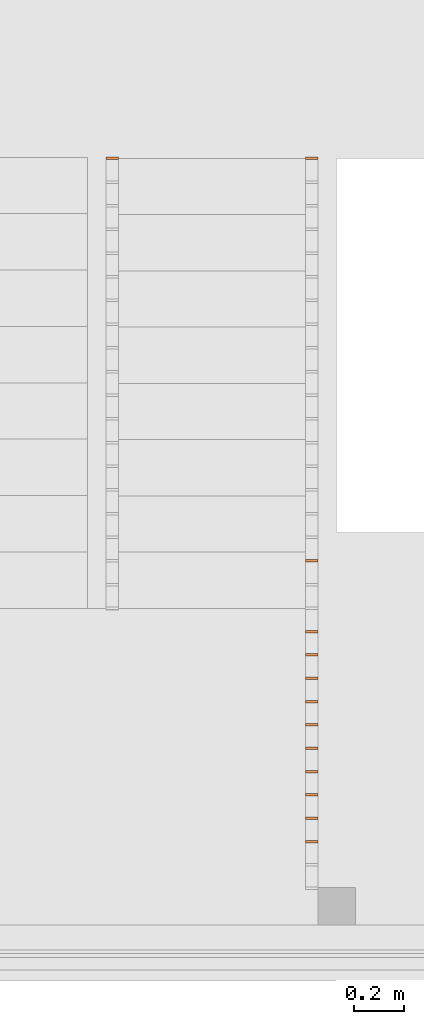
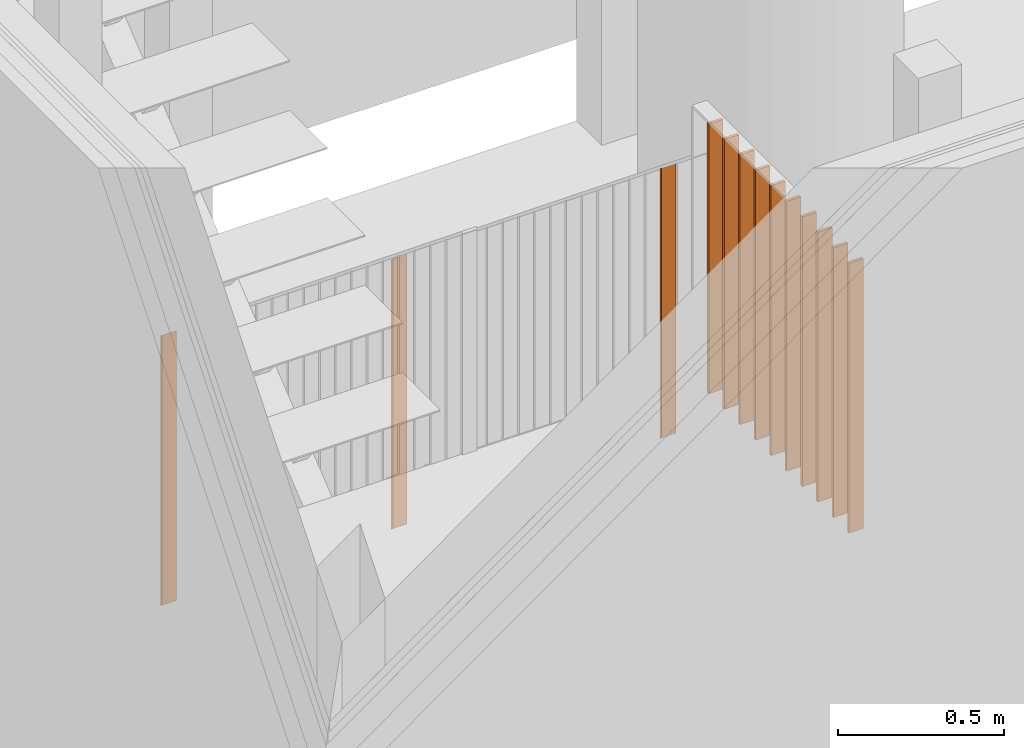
# One storey, part 83 of 112: 13 proxies, 3 elements without a shape of their own.
"""IFC2X3 building model written with IfcOpenShell, lengths in millimetres."""

from ifc_helpers import new_model, entity, si_unit, converted_unit, derived_unit, money_unit, direction, frame, origin_with_axes, place, context, subcontext, project, spatial, faceted_brep, source, transform, mapped, material, type_object, element, aggregate, save


model = new_model("IFC2X3")

# Units and contexts
model_context = context("Model", 3, precision=0.01, world=origin_with_axes(), true_north=direction((0.0, 1.0)))
body_context = subcontext(model_context, "Body", "Model", "MODEL_VIEW")
ifc_project = project(units=[si_unit("LENGTHUNIT", "METRE", prefix="MILLI"), si_unit("AREAUNIT", "SQUARE_METRE"), si_unit("VOLUMEUNIT", "CUBIC_METRE"), converted_unit("PLANEANGLEUNIT", "DEGREE", entity("IfcPlaneAngleMeasure", 0.0174532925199), si_unit("PLANEANGLEUNIT", "RADIAN"), dimensions=[0, 0, 0, 0, 0, 0, 0]), si_unit("SOLIDANGLEUNIT", "STERADIAN"), money_unit("EUR"), converted_unit("TIMEUNIT", "Year", entity("IfcTimeMeasure", 31556926.0), si_unit("TIMEUNIT", "SECOND"), dimensions=[0, 0, 1, 0, 0, 0, 0]), si_unit("MASSUNIT", "GRAM", prefix="KILO"), si_unit("THERMODYNAMICTEMPERATUREUNIT", "DEGREE_CELSIUS"), si_unit("LUMINOUSINTENSITYUNIT", "LUMEN"), si_unit("ENERGYUNIT", "JOULE", prefix="MEGA"), derived_unit("THERMALCONDUCTANCEUNIT", [(si_unit("POWERUNIT", "WATT"), 1), (si_unit("LENGTHUNIT", "METRE"), -1), (si_unit("THERMODYNAMICTEMPERATUREUNIT", "KELVIN"), -1)]), derived_unit("SPECIFICHEATCAPACITYUNIT", [(si_unit("ENERGYUNIT", "JOULE"), 1), (si_unit("MASSUNIT", "GRAM", prefix="KILO"), -1), (si_unit("THERMODYNAMICTEMPERATUREUNIT", "KELVIN"), -1)]), derived_unit("MASSDENSITYUNIT", [(si_unit("MASSUNIT", "GRAM", prefix="KILO"), 1), (si_unit("VOLUMEUNIT", "CUBIC_METRE"), -1)])], contexts=[model_context])

# Site, building, storey
site_placement = place(None, origin_with_axes())
site = spatial("IfcSite", under=ifc_project, at=site_placement, Name="Politse- ja Piirivalveameti ning Päästeameti ühishoone", CompositionType="ELEMENT")
building_placement = place(site_placement, origin_with_axes())
building = spatial("IfcBuilding", under=site, at=building_placement, Name="Politse- ja Piirivalveameti ning Päästeameti ühishoone", CompositionType="ELEMENT")
storey_placement = place(building_placement, origin_with_axes())
storey = spatial("IfcBuildingStorey", under=building, at=storey_placement, Name="Esimene korrus", CompositionType="ELEMENT", Elevation=0.0)

# Railing, proxy
railing_type = type_object("IfcRailingType", Name="Railing Type", PredefinedType="NOTDEFINED")
railing_1_placement = place(storey_placement, frame((-13032.0653854, 2843.99975677, 0.0), z_axis=(0.0, 0.0, 1.0), x_axis=(-1.0, 0.0, 0.0)))
railing_1 = element("IfcRailing", 1, at=railing_1_placement, inside=storey, type_object=railing_type, Name="PIIRE 2", PredefinedType="NOTDEFINED")
ifc_material = material(Name="Teras - Konstruktsioon")
building_element_proxy_type = type_object("IfcBuildingElementProxyType", Name="IfcBuildingElementProxy", PredefinedType="NOTDEFINED")
shared_shape_1 = source(origin_with_axes(), body_context, "Body", "Brep", [
    faceted_brep([(25.0, 5.0, 4.06243551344), (-25.0, 5.0, 4.06243551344), (-25.0, 5.0, 994.062435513), (25.0, 5.0, 994.062435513), (25.0, -5.0, -4.06243551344), (-25.0, -5.0, -4.06243551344), (-25.0, -5.0, 985.937564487), (25.0, -5.0, 985.937564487)], [[[0, 1, 2, 3]], [[0, 4, 5, 1]], [[1, 5, 6, 2]], [[3, 2, 6, 7]], [[4, 0, 3, 7]], [[5, 4, 7, 6]]]),
])
proxy_1_placement = place(railing_1_placement, frame((-25.0, -156.657102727, 0.0), z_axis=(0.0, 0.0, 1.0), x_axis=(-1.0, 0.0, 0.0)))
proxy_1 = element("IfcBuildingElementProxy", 2, at=proxy_1_placement, type_object=building_element_proxy_type, material=ifc_material, Name="PIIRDE POST - 001", context=body_context, shape_type="MappedRepresentation", body=[
    mapped(shared_shape_1, transform((0.0, 0.0, 0.0), x_axis=(-1.0, 0.0, 0.0), y_axis=(0.0, -1.0, 0.0), z_axis=(0.0, 0.0, 1.0))),
])
aggregate(railing_1, [proxy_1])

# Railing, proxies
railing_2_placement = place(storey_placement, frame((-12182.0653854, 2843.99975677, 0.0), z_axis=(0.0, 0.0, 1.0), x_axis=(1.0, 0.0, 0.0)))
railing_2 = element("IfcRailing", 3, at=railing_2_placement, inside=storey, type_object=railing_type, Name="PIIRE 2", PredefinedType="NOTDEFINED")
proxy_2_placement = place(railing_2_placement, frame((-25.0, 156.657102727, 0.0), z_axis=(0.0, 0.0, 1.0), x_axis=(1.0, 0.0, 0.0)))
proxy_2 = element("IfcBuildingElementProxy", 4, at=proxy_2_placement, type_object=building_element_proxy_type, material=ifc_material, Name="PIIRDE POST - 001", context=body_context, shape_type="MappedRepresentation", body=[
    mapped(shared_shape_1, transform((0.0, 0.0, 0.0), x_axis=(-1.0, 0.0, 0.0), y_axis=(0.0, -1.0, 0.0), z_axis=(0.0, 0.0, 1.0))),
])
shared_shape_2 = source(origin_with_axes(), body_context, "Body", "Brep", [
    faceted_brep([(25.0, 5.0, 4.06243551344), (-25.0, 5.0, 4.06243551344), (-25.0, 5.0, 994.062448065), (25.0, 5.0, 994.062448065), (25.0, -5.0, -4.06243551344), (-25.0, -5.0, -4.06243551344), (-25.0, -5.0, 985.937577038), (25.0, -5.0, 985.937577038)], [[[0, 1, 2, 3]], [[0, 4, 5, 1]], [[1, 5, 6, 2]], [[3, 2, 6, 7]], [[4, 0, 3, 7]], [[5, 4, 7, 6]]]),
])
proxy_3_placement = place(railing_2_placement, frame((-25.0, -1458.48324524, 1312.2806892), z_axis=(0.0, 0.0, 1.0), x_axis=(1.0, 0.0, 0.0)))
proxy_3 = element("IfcBuildingElementProxy", 5, at=proxy_3_placement, type_object=building_element_proxy_type, material=ifc_material, Name="BALUSTER - 001", context=body_context, shape_type="MappedRepresentation", body=[
    mapped(shared_shape_2, transform((0.0, 0.0, 0.0), x_axis=(-1.0, 0.0, 0.0), y_axis=(0.0, -1.0, 0.0), z_axis=(0.0, 0.0, 1.0))),
])
aggregate(railing_2, [proxy_2, proxy_3])

railing_3_placement = place(storey_placement, frame((-12182.0653854, 2843.99975677, 1650.00001255), z_axis=(0.0, 0.0, 1.0), x_axis=(1.0, 0.0, 0.0)))
railing_3 = element("IfcRailing", 6, at=railing_3_placement, inside=storey, type_object=railing_type, Name="PIIRE 2", PredefinedType="NOTDEFINED")
shared_shape_3 = source(origin_with_axes(), body_context, "Body", "Brep", [
    faceted_brep([(25.0, 5.0, 0.0), (-25.0, 5.0, 0.0), (-25.0, 5.0, 990.000012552), (25.0, 5.0, 990.000012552), (25.0, -5.0, 0.0), (-25.0, -5.0, 0.0), (-25.0, -5.0, 990.000012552), (25.0, -5.0, 990.000012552)], [[[0, 1, 2, 3]], [[0, 4, 5, 1]], [[1, 5, 6, 2]], [[3, 2, 6, 7]], [[4, 0, 3, 7]], [[5, 4, 7, 6]]]),
])
proxy_4_placement = place(railing_3_placement, frame((-25.0, -1742.11007824, -1.25517001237e-05), z_axis=(0.0, 0.0, 1.0), x_axis=(1.0, 0.0, 0.0)))
proxy_4 = element("IfcBuildingElementProxy", 7, at=proxy_4_placement, type_object=building_element_proxy_type, material=ifc_material, Name="BALUSTER - 001", context=body_context, shape_type="MappedRepresentation", body=[
    mapped(shared_shape_3, transform((0.0, 0.0, 0.0), x_axis=(-1.0, 0.0, 0.0), y_axis=(0.0, -1.0, 0.0), z_axis=(0.0, 0.0, 1.0))),
])
proxy_5_placement = place(railing_3_placement, frame((-25.0, -1835.72039971, -1.25517001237e-05), z_axis=(0.0, 0.0, 1.0), x_axis=(1.0, 0.0, 0.0)))
proxy_5 = element("IfcBuildingElementProxy", 8, at=proxy_5_placement, type_object=building_element_proxy_type, material=ifc_material, Name="BALUSTER - 001", context=body_context, shape_type="MappedRepresentation", body=[
    mapped(shared_shape_3, transform((0.0, 0.0, 0.0), x_axis=(-1.0, 0.0, 0.0), y_axis=(0.0, -1.0, 0.0), z_axis=(0.0, 0.0, 1.0))),
])
proxy_6_placement = place(railing_3_placement, frame((-25.0, -1929.33072119, -1.25517001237e-05), z_axis=(0.0, 0.0, 1.0), x_axis=(1.0, 0.0, 0.0)))
proxy_6 = element("IfcBuildingElementProxy", 9, at=proxy_6_placement, type_object=building_element_proxy_type, material=ifc_material, Name="BALUSTER - 001", context=body_context, shape_type="MappedRepresentation", body=[
    mapped(shared_shape_3, transform((0.0, 0.0, 0.0), x_axis=(-1.0, 0.0, 0.0), y_axis=(0.0, -1.0, 0.0), z_axis=(0.0, 0.0, 1.0))),
])
proxy_7_placement = place(railing_3_placement, frame((-25.0, -2022.94104266, -1.25517001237e-05), z_axis=(0.0, 0.0, 1.0), x_axis=(1.0, 0.0, 0.0)))
proxy_7 = element("IfcBuildingElementProxy", 10, at=proxy_7_placement, type_object=building_element_proxy_type, material=ifc_material, Name="BALUSTER - 001", context=body_context, shape_type="MappedRepresentation", body=[
    mapped(shared_shape_3, transform((0.0, 0.0, 0.0), x_axis=(-1.0, 0.0, 0.0), y_axis=(0.0, -1.0, 0.0), z_axis=(0.0, 0.0, 1.0))),
])
proxy_8_placement = place(railing_3_placement, frame((-25.0, -2116.55136414, -1.25517001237e-05), z_axis=(0.0, 0.0, 1.0), x_axis=(1.0, 0.0, 0.0)))
proxy_8 = element("IfcBuildingElementProxy", 11, at=proxy_8_placement, type_object=building_element_proxy_type, material=ifc_material, Name="BALUSTER - 001", context=body_context, shape_type="MappedRepresentation", body=[
    mapped(shared_shape_3, transform((0.0, 0.0, 0.0), x_axis=(-1.0, 0.0, 0.0), y_axis=(0.0, -1.0, 0.0), z_axis=(0.0, 0.0, 1.0))),
])
proxy_9_placement = place(railing_3_placement, frame((-25.0, -2210.16168561, -1.25517001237e-05), z_axis=(0.0, 0.0, 1.0), x_axis=(1.0, 0.0, 0.0)))
proxy_9 = element("IfcBuildingElementProxy", 12, at=proxy_9_placement, type_object=building_element_proxy_type, material=ifc_material, Name="BALUSTER - 001", context=body_context, shape_type="MappedRepresentation", body=[
    mapped(shared_shape_3, transform((0.0, 0.0, 0.0), x_axis=(-1.0, 0.0, 0.0), y_axis=(0.0, -1.0, 0.0), z_axis=(0.0, 0.0, 1.0))),
])
proxy_10_placement = place(railing_3_placement, frame((-25.0, -2303.77200709, -1.25517001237e-05), z_axis=(0.0, 0.0, 1.0), x_axis=(1.0, 0.0, 0.0)))
proxy_10 = element("IfcBuildingElementProxy", 13, at=proxy_10_placement, type_object=building_element_proxy_type, material=ifc_material, Name="BALUSTER - 001", context=body_context, shape_type="MappedRepresentation", body=[
    mapped(shared_shape_3, transform((0.0, 0.0, 0.0), x_axis=(-1.0, 0.0, 0.0), y_axis=(0.0, -1.0, 0.0), z_axis=(0.0, 0.0, 1.0))),
])
shared_shape_4 = source(origin_with_axes(), body_context, "Body", "Brep", [
    faceted_brep([(25.0, 5.0, 0.0), (-25.0, 5.0, 0.0), (-25.0, 5.0, 990.000012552), (25.0, 5.0, 990.000012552), (25.0, -5.0, 0.0), (-25.0, -5.0, 0.0), (-25.0, -5.0, 990.000012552), (25.0, -5.0, 990.000012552)], [[[0, 1, 2, 3]], [[0, 4, 5, 1]], [[1, 5, 6, 2]], [[3, 2, 6, 7]], [[4, 0, 3, 7]], [[5, 4, 7, 6]]]),
])
proxy_11_placement = place(railing_3_placement, frame((-25.0, -2397.38232856, -1.25517001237e-05), z_axis=(0.0, 0.0, 1.0), x_axis=(1.0, 0.0, 0.0)))
proxy_11 = element("IfcBuildingElementProxy", 14, at=proxy_11_placement, type_object=building_element_proxy_type, material=ifc_material, Name="BALUSTER - 001", context=body_context, shape_type="MappedRepresentation", body=[
    mapped(shared_shape_4, transform((0.0, 0.0, 0.0), x_axis=(-1.0, 0.0, 0.0), y_axis=(0.0, -1.0, 0.0), z_axis=(0.0, 0.0, 1.0))),
])
proxy_12_placement = place(railing_3_placement, frame((-25.0, -2490.99265003, -1.25517001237e-05), z_axis=(0.0, 0.0, 1.0), x_axis=(1.0, 0.0, 0.0)))
proxy_12 = element("IfcBuildingElementProxy", 15, at=proxy_12_placement, type_object=building_element_proxy_type, material=ifc_material, Name="BALUSTER - 001", context=body_context, shape_type="MappedRepresentation", body=[
    mapped(shared_shape_4, transform((0.0, 0.0, 0.0), x_axis=(-1.0, 0.0, 0.0), y_axis=(0.0, -1.0, 0.0), z_axis=(0.0, 0.0, 1.0))),
])
proxy_13_placement = place(railing_3_placement, frame((-25.0, -2584.60297151, -1.25517001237e-05), z_axis=(0.0, 0.0, 1.0), x_axis=(1.0, 0.0, 0.0)))
proxy_13 = element("IfcBuildingElementProxy", 16, at=proxy_13_placement, type_object=building_element_proxy_type, material=ifc_material, Name="BALUSTER - 001", context=body_context, shape_type="MappedRepresentation", body=[
    mapped(shared_shape_4, transform((0.0, 0.0, 0.0), x_axis=(-1.0, 0.0, 0.0), y_axis=(0.0, -1.0, 0.0), z_axis=(0.0, 0.0, 1.0))),
])
aggregate(railing_3, [proxy_4, proxy_5, proxy_6, proxy_7, proxy_8, proxy_9, proxy_10, proxy_11, proxy_12, proxy_13])

save(model, "model.ifc")
